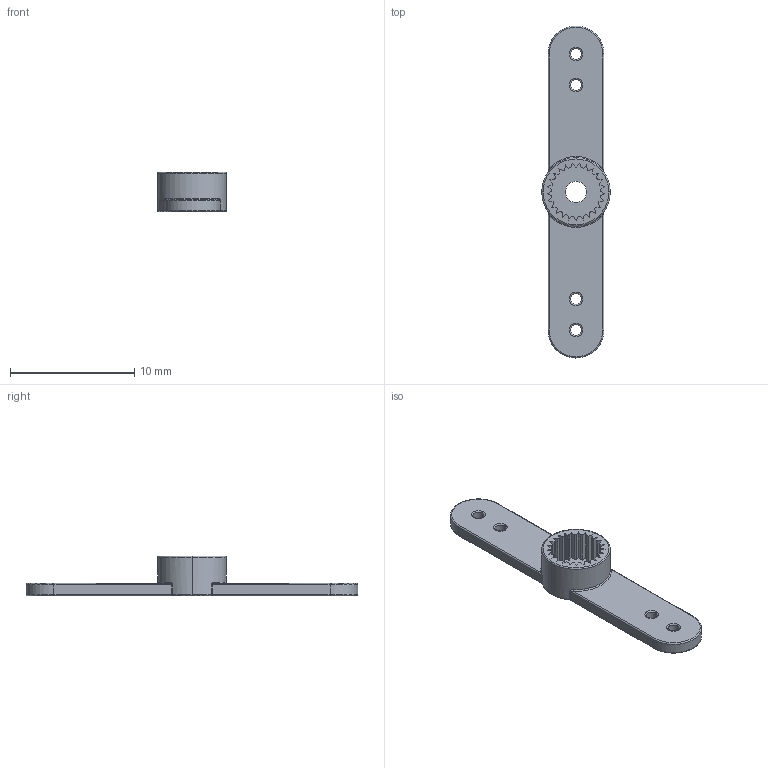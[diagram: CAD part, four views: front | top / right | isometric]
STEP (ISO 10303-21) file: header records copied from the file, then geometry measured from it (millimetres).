
FILE_DESCRIPTION (( 'STEP AP203' ), '1' );
FILE_NAME ('Micro sized Servo Mount - x4_Double.step', '2015-09-06T16:22:58', ( '' ), ( '' ), 'SwSTEP 2.0', 'SolidWorks 2015', '' );
FILE_SCHEMA (( 'CONFIG_CONTROL_DESIGN' ));
Length unit declared in the file: millimetre
Products named in the file (1): Micro sized Servo Mount - x4_Double
Bounding box: 5.5 x 26.7 x 3.2 mm (x, y, z)
Volume: 128.4 mm3; surface area: 390.4 mm2
Topology: 1 solids, 1 shells, 150 faces, 393 edges, 245 vertices
Faces by surface type: plane 60, cylinder 53, torus 31, bspline 6
Entity records: 4924 total; most frequent: CARTESIAN_POINT 1061, DIRECTION 831, ORIENTED_EDGE 782, EDGE_CURVE 391, AXIS2_PLACEMENT_3D 307, VERTEX_POINT 245, LINE 217, VECTOR 217
